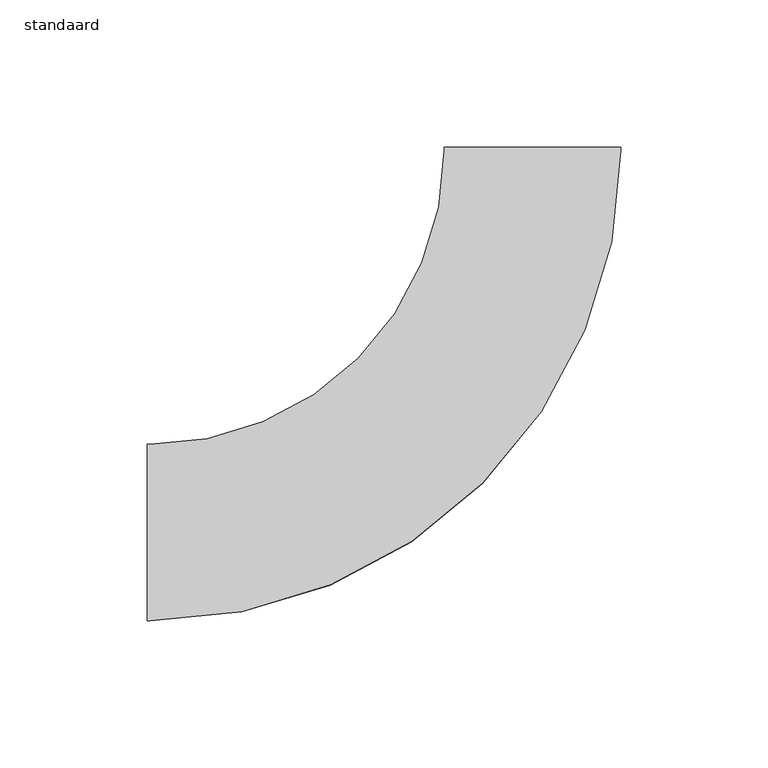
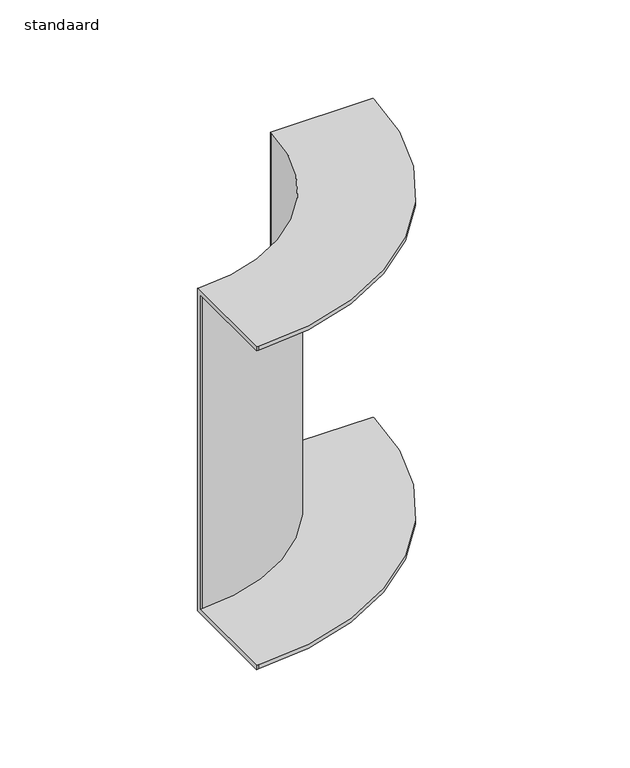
"""IFC4 building model written with IfcOpenShell, lengths in millimetres: cable carrier fitting geometry, AI_Raccord cdc_Coude desencdant : standaard."""

from ifc_helpers import new_model, si_unit, frame, origin, place, context, project, spatial, polyline, circle_curve, source, transform, mapped, element, save
from ifc_brep_helpers import plane_surface, cylinder_surface, revolved_surface, advanced_brep


def standaard_62cd015a(model_context):
    return source(origin(), model_context, "Body", "AdvancedBrep", [
        advanced_brep(
        [(-131.0, -30.0, 100.0), (-131.0, 30.0, 100.0), (-131.0, 30.0, -100.0), (-131.0, -30.0, -100.0), (-131.0, -30.0, -97.46), (-131.0, 27.46, -97.46), (-131.0, 27.46, 97.46), (-131.0, -30.0, 97.46), (30.0, 131.0, 100.0), (30.0, 131.0, 97.46), (-27.46, 131.0, 97.46), (-27.46, 131.0, -97.46), (30.0, 131.0, -97.46), (30.0, 131.0, -100.0), (-30.0, 131.0, -100.0), (-30.0, 131.0, 100.0), (-130.0, -30.0, 100.0), (30.0, 130.0, 100.0), (-30.0, 130.0, 100.0), (-130.0, 30.0, 100.0), (-130.0, 30.0, -100.0), (-30.0, 130.0, -100.0), (30.0, 130.0, -100.0), (-130.0, -30.0, -100.0), (-130.0, -30.0, -97.46), (30.0, 130.0, -97.46), (-27.46, 130.0, -97.46), (-130.0, 27.46, -97.46), (-130.0, 27.46, 97.46), (-27.46, 130.0, 97.46), (30.0, 130.0, 97.46), (-130.0, -30.0, 97.46)],
        [
            (0, 1),
            (1, 2),
            (2, 3),
            (3, 4),
            (4, 5),
            (5, 6),
            (6, 7),
            (7, 0),
            (8, 9),
            (9, 10),
            (10, 11),
            (11, 12),
            (12, 13),
            (13, 14),
            (14, 15),
            (15, 8),
            (0, 16),
            (16, 17, circle_curve(frame((-130.0, 130.0, 100.0), z_axis=(0.0, 0.0, 1.0), x_axis=(0.0, -1.0, 0.0)), 160.0)),
            (17, 8),
            (15, 18),
            (18, 19, circle_curve(frame((-130.0, 130.0, 100.0), z_axis=(0.0, 0.0, -1.0), x_axis=(0.0, -1.0, 0.0)), 100.0)),
            (19, 1),
            (19, 20),
            (20, 2),
            (20, 21, circle_curve(frame((-130.0, 130.0, -100.0), z_axis=(0.0, 0.0, 1.0), x_axis=(0.0, -1.0, 0.0)), 100.0)),
            (21, 14),
            (13, 22),
            (22, 23, circle_curve(frame((-130.0, 130.0, -100.0), z_axis=(0.0, 0.0, -1.0), x_axis=(0.0, -1.0, 0.0)), 160.0)),
            (23, 3),
            (23, 24),
            (24, 4),
            (24, 25, circle_curve(frame((-130.0, 130.0, -97.46), z_axis=(0.0, 0.0, 1.0), x_axis=(0.0, -1.0, 0.0)), 160.0)),
            (25, 12),
            (11, 26),
            (26, 27, circle_curve(frame((-130.0, 130.0, -97.46), z_axis=(0.0, 0.0, -1.0), x_axis=(0.0, -1.0, 0.0)), 102.54)),
            (27, 5),
            (27, 28),
            (28, 6),
            (28, 29, circle_curve(frame((-130.0, 130.0, 97.46), z_axis=(0.0, 0.0, 1.0), x_axis=(0.0, -1.0, 0.0)), 102.54)),
            (29, 10),
            (9, 30),
            (30, 31, circle_curve(frame((-130.0, 130.0, 97.46), z_axis=(0.0, 0.0, -1.0), x_axis=(0.0, -1.0, 0.0)), 160.0)),
            (31, 7),
            (31, 16),
            (18, 21),
            (22, 25),
            (26, 29),
            (30, 17),
        ],
        [
            plane_surface(frame((-131.0, 0.0, 0.0), z_axis=(-1.0, -4.889821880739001e-12, 0.0), x_axis=(0.0, 0.0, 1.0))),
            plane_surface(frame((0.0, 131.0, 0.0), z_axis=(0.0, 1.0, 0.0), x_axis=(0.0, 0.0, 1.0))),
            plane_surface(frame((-131.0, -30.0, 100.0), z_axis=(0.0, 0.0, 1.0), x_axis=(1.0, 4.889821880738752e-12, 0.0))),
            plane_surface(frame((-131.0, 30.0, 100.0), z_axis=(-4.8898218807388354e-12, 1.0, 0.0), x_axis=(1.0, 4.8898218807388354e-12, 0.0))),
            plane_surface(frame((-131.0, 30.0, -100.0), z_axis=(0.0, 0.0, -1.0), x_axis=(1.0, 4.8898218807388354e-12, 0.0))),
            plane_surface(frame((-131.0, -30.0, -100.0), z_axis=(4.889821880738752e-12, -1.0, 0.0), x_axis=(1.0, 4.889821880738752e-12, 0.0))),
            plane_surface(frame((-131.0, -30.0, -97.46), z_axis=(0.0, 0.0, 1.0), x_axis=(1.0, 4.889821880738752e-12, 0.0))),
            plane_surface(frame((-131.0, 27.46, -97.46), z_axis=(4.898281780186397e-12, -1.0, 0.0), x_axis=(1.0, 4.898281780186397e-12, 0.0))),
            plane_surface(frame((-131.0, 27.46, 97.46), z_axis=(0.0, 0.0, -1.0), x_axis=(1.0, 4.898281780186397e-12, 0.0))),
            plane_surface(frame((-131.0, -30.0, 97.46), z_axis=(4.889821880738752e-12, -1.0, 0.0), x_axis=(1.0, 4.889821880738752e-12, 0.0))),
            revolved_surface(polyline([(-130.0, 30.0, 100.0), (-130.0, 30.0, -100.0)]), (-130.0, 130.0, 0.0), (0.0, 0.0, 1.0)),
            cylinder_surface(frame((-130.0, 130.0, 0.0), z_axis=(0.0, 0.0, 1.0), x_axis=(0.0, -1.0, 0.0)), 160.0),
            cylinder_surface(frame((-130.0, 130.0, 0.0), z_axis=(0.0, 0.0, 1.0), x_axis=(0.0, -1.0, 0.0)), 102.54),
            plane_surface(frame((-30.0, 130.0, 100.0), z_axis=(-1.0, 0.0, 0.0), x_axis=(0.0, 1.0, 0.0))),
            plane_surface(frame((30.0, 130.0, -100.0), z_axis=(1.0, 0.0, 0.0), x_axis=(0.0, 1.0, 0.0))),
            plane_surface(frame((-27.46, 130.0, -97.46), z_axis=(1.0, 0.0, 0.0), x_axis=(0.0, 1.0, 0.0))),
            plane_surface(frame((30.0, 130.0, 97.46), z_axis=(1.0, 0.0, 0.0), x_axis=(0.0, 1.0, 0.0))),
        ],
        [
            (0, [[1, 2, 3, 4, 5, 6, 7, 8]]),
            (1, [[9, 10, 11, 12, 13, 14, 15, 16]]),
            (2, [[-1, 17, 18, 19, -16, 20, 21, 22]]),
            (3, [[-2, -22, 23, 24]]),
            (4, [[-3, -24, 25, 26, -14, 27, 28, 29]]),
            (5, [[-4, -29, 30, 31]]),
            (6, [[-5, -31, 32, 33, -12, 34, 35, 36]]),
            (7, [[-6, -36, 37, 38]]),
            (8, [[-7, -38, 39, 40, -10, 41, 42, 43]]),
            (9, [[-8, -43, 44, -17]]),
            (10, [[-25, -23, -21, 45]]),
            (11, [[-32, -30, -28, 46]]),
            (12, [[-39, -37, -35, 47]]),
            (11, [[-18, -44, -42, 48]]),
            (13, [[-45, -20, -15, -26]]),
            (14, [[-46, -27, -13, -33]]),
            (15, [[-47, -34, -11, -40]]),
            (16, [[-48, -41, -9, -19]]),
        ],
    ),
    ])


if __name__ == "__main__":
    model = new_model("IFC4")
    model_context = context("Model", 3, world=origin())
    ifc_project = project(units=[si_unit("LENGTHUNIT", "METRE", prefix="MILLI")], contexts=[model_context])
    site = spatial("IfcSite", under=ifc_project)
    building = spatial("IfcBuilding", under=site)
    placement = place(None, origin())
    standaard_shape = standaard_62cd015a(model_context)
    element("IfcCableCarrierFitting", 1, ObjectType="AI_Raccord cdc_Coude desencdant : standaard", at=placement, inside=building, context=model_context, shape_type="MappedRepresentation", body=[
        mapped(standaard_shape, transform((0.0, 0.0, 0.0), x_axis=(1.0, 0.0, 0.0), y_axis=(0.0, 1.0, 0.0), z_axis=(0.0, 0.0, 1.0))),
    ])
    save(model, "model.ifc")
